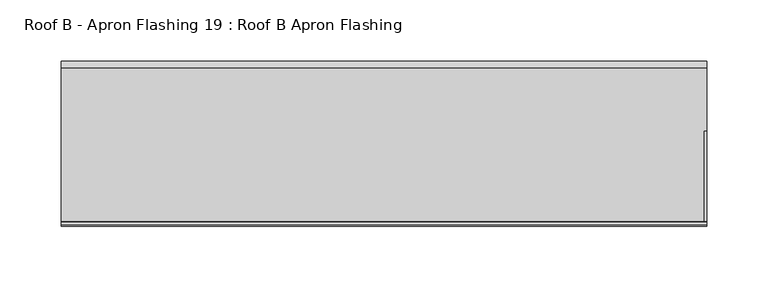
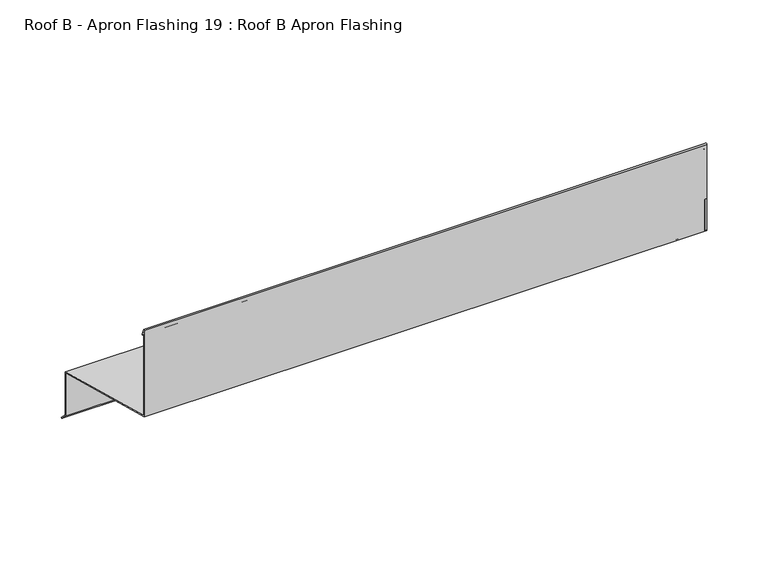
"""IFC4 building model written with IfcOpenShell, lengths in millimetres: proxy geometry, Roof B - Apron Flashing 19 : Roof B Apron Flashing."""

from ifc_helpers import new_model, si_unit, point, frame, frame_2d, origin, place, context, project, spatial, polyline, circle_curve, trimmed, segment, composite_curve, outline, extrude, source, transform, mapped, element, save


def roof_b_apron_flashing_19_roof_b_apron_flashing_c7f32d68(model_context):
    return source(origin(), model_context, "Body", "SweptSolid", [
        extrude(outline(polyline([(-23631.3591805, -388.7215885), (-23676.6071624, -376.5974283), (-23676.6071624, -333.9762204), (-23631.3591805, -346.1003806), (-23631.3591805, -388.7215885)])), frame((13584.0936679, 0.0, 0.0), z_axis=(1.0, 0.0, 0.0), x_axis=(0.0, 1.0, 0.0)), (0.0, 0.0, 1.0), 2.0),
        extrude(outline(polyline([(-23681.6071624, -331.6011982), (-23759.7321624, -310.6676676), (-23759.7321624, -279.7934577), (-23681.6071624, -300.7269884), (-23681.6071624, -331.6011982)])), frame((13584.0936679, 0.0, 0.0), z_axis=(1.0, 0.0, 0.0), x_axis=(0.0, 1.0, 0.0)), (0.0, 0.0, 1.0), 2.0),
        extrude(outline(composite_curve([segment(polyline([(-23630.3591805, -345.3330536), (-23630.3591805, -388.338713), (-23624.3285452, -394.3693483), (-23625.035652, -395.0764551), (-23631.3591805, -388.7529266), (-23631.3591805, -346.1003806), (-23759.7321624, -311.7029438), (-23759.7321624, -225.8538686)]), True, "CONTINUOUS"), segment(trimmed(circle_curve(frame_2d((-23759.0531182, -225.8538686)), 0.6790442), [point((-23759.7321624, -225.8538686))], [point((-23758.4235194, -225.5994942))], False, "CARTESIAN"), True, "CONTINUOUS"), segment(polyline([(-23758.4235194, -225.5994942), (-23756.0090646, -231.5754797)]), True, "CONTINUOUS"), segment(trimmed(circle_curve(frame_2d((-23756.4726565, -231.762783)), 0.5), [point((-23756.0090646, -231.5754797))], [point((-23756.9362484, -231.9500863))], False, "CARTESIAN"), True, "CONTINUOUS"), segment(polyline([(-23756.9362484, -231.9500863), (-23758.7321624, -227.5050431), (-23758.7321624, -310.9356168), (-23630.3591805, -345.3330536)]), True, "CONTINUOUS")], self_intersect=False)), frame((13057.2186679, 0.0, 0.0), z_axis=(1.0, 0.0, 0.0), x_axis=(0.0, 1.0, 0.0)), (0.0, 0.0, 1.0), 528.875),
    ])


if __name__ == "__main__":
    model = new_model("IFC4")
    model_context = context("Model", 3, world=origin())
    ifc_project = project(units=[si_unit("LENGTHUNIT", "METRE", prefix="MILLI")], contexts=[model_context])
    site = spatial("IfcSite", under=ifc_project)
    building = spatial("IfcBuilding", under=site)
    placement = place(None, origin())
    roof_b_apron_flashing_19_roof_b_apron_flashing_shape = roof_b_apron_flashing_19_roof_b_apron_flashing_c7f32d68(model_context)
    element("IfcBuildingElementProxy", 1, Name="Roof B - Apron Flashing 19 : Roof B Apron Flashing", ObjectType="Roof B - Apron Flashing 19 : Roof B Apron Flashing", at=placement, inside=building, context=model_context, shape_type="MappedRepresentation", body=[
        mapped(roof_b_apron_flashing_19_roof_b_apron_flashing_shape, transform((0.0, 0.0, 0.0), x_axis=(1.0, 0.0, 0.0), y_axis=(0.0, 1.0, 0.0), z_axis=(0.0, 0.0, 1.0))),
    ])
    save(model, "model.ifc")
